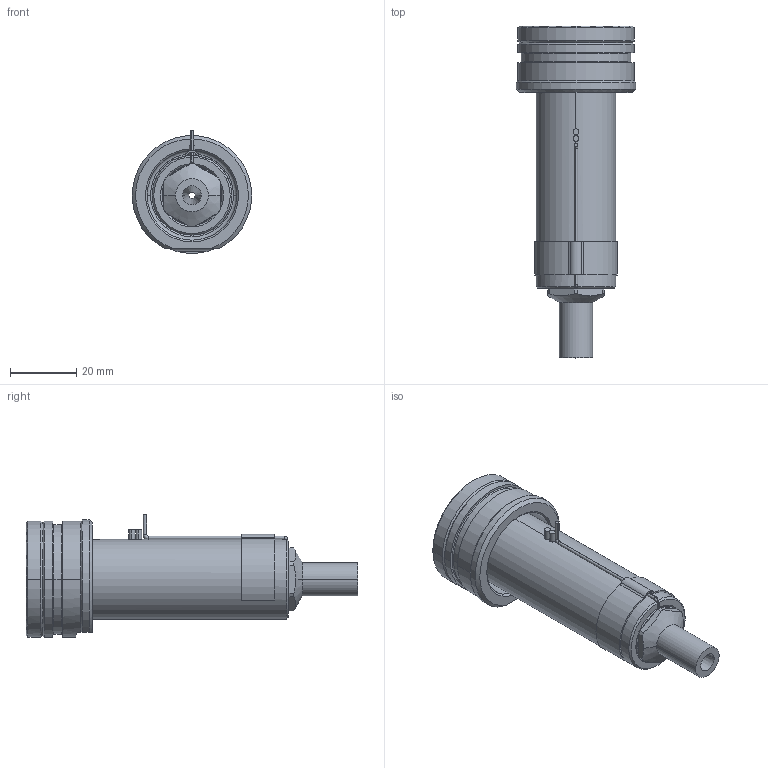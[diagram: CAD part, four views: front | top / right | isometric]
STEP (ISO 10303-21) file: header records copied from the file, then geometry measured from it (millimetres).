
FILE_DESCRIPTION((''),'2;1');
FILE_NAME('EO06_SG_ESG_070_SW','2024-02-19T12:17:37',('sundharh'),(''),'CREO PARAMETRIC BY PTC INC, 2023154','CREO PARAMETRIC BY PTC INC, 2023154','');
FILE_SCHEMA(('CONFIG_CONTROL_DESIGN'));
Length unit declared in the file: millimetre
Products named in the file (1): EO06_SG_ESG_070_SW
Bounding box: 35.93 x 100 x 37 mm (x, y, z)
Volume: 43743.7 mm3; surface area: 13955.2 mm2
Topology: 2 solids, 2 shells, 169 faces, 429 edges, 260 vertices
Faces by surface type: cylinder 68, plane 41, cone 30, torus 21, bspline 6, sphere 3
Entity records: 5726 total; most frequent: CARTESIAN_POINT 1599, DIRECTION 908, ORIENTED_EDGE 842, EDGE_CURVE 421, AXIS2_PLACEMENT_3D 379, VERTEX_POINT 260, CIRCLE 216, EDGE_LOOP 183
